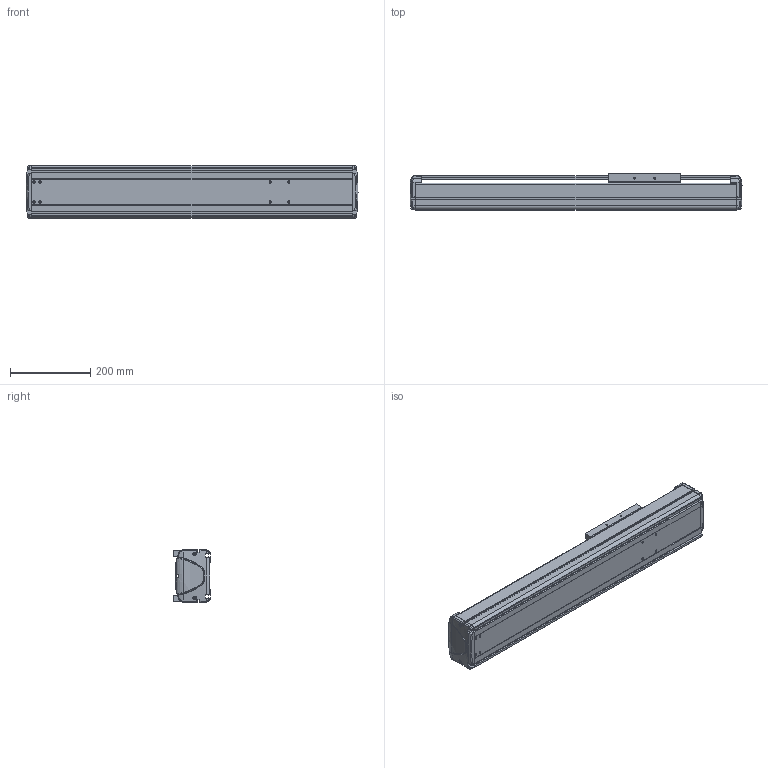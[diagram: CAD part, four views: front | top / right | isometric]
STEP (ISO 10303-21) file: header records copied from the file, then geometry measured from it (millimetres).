
FILE_DESCRIPTION((''),'2;1');
FILE_NAME('BE30E-ST-L_B-45_IGS_PRT','2017-06-17T',(' '),(''),'PRO/ENGINEER BY PARAMETRIC TECHNOLOGY CORPORATION, 2015030','PRO/ENGINEER BY PARAMETRIC TECHNOLOGY CORPORATION, 2015030','');
FILE_SCHEMA(('CONFIG_CONTROL_DESIGN'));
Length unit declared in the file: millimetre
Products named in the file (1): BE30E-ST-L_B-45_IGS_PRT
Bounding box: 825 x 89.8 x 130 mm (x, y, z)
Volume: 2619365.6 mm3; surface area: 1041371.8 mm2
Topology: 3 solids, 81 shells, 1331 faces, 3571 edges, 2339 vertices
Faces by surface type: cylinder 587, plane 586, bspline 58, torus 46, cone 30, sphere 24
Entity records: 44822 total; most frequent: CARTESIAN_POINT 11404, DIRECTION 6878, ORIENTED_EDGE 6797, EDGE_CURVE 3551, AXIS2_PLACEMENT_3D 2475, VERTEX_POINT 2339, VECTOR 1928, LINE 1928
